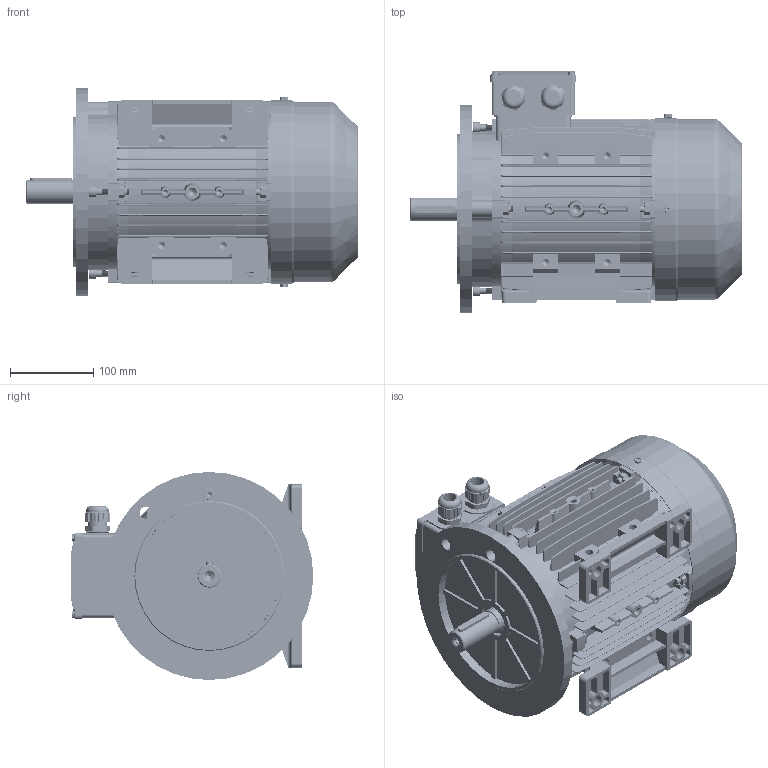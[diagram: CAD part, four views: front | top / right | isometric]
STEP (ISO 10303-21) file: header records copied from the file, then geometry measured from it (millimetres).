
FILE_DESCRIPTION (( 'STEP AP203' ), '1' );
FILE_NAME ('MSL112L assembly B35.STEP', '2017-11-26T10:00:52', ( 'user' ), ( 'china' ), 'SwSTEP 2.0', 'SolidWorks 2016', '' );
FILE_SCHEMA (( 'CONFIG_CONTROL_DESIGN' ));
Length unit declared in the file: millimetre
Products named in the file (17): MS112 綴裔瑞欶郪磁_105; M112菁褐; MS132諉盄碟釱(苤)_2Holes; GB-T 29.2-1988 M4鞠褒坋趼湍菜_05; M112傷裔B3_Post; MSL112L assembly B35; GB-T 70.1-2000 M8_40; M112瑞欶_105; M112-132諉盄碟(苤); GB-T 5780-2000 M8_040; M25 cable gland; M112-Shaft drive end; M112儂褲; GB-T 29.2-1988 M5鞠褒坋趼湍菜_10; M112傷裔B5; MS132諉盄碟裔(苤); GB-T 41-2000 M8
Assembly tree (36 placements, depth 3):
  MSL112L assembly B35
    M112儂褲
    M112-Shaft drive end
    MS112 綴裔瑞欶郪磁_105
      M112傷裔B3_Post
      M112瑞欶_105
      GB-T 29.2-1988 M5鞠褒坋趼湍菜_10  x3
    M112傷裔B5
    M112-132諉盄碟(苤)
      MS132諉盄碟釱(苤)_2Holes
      MS132諉盄碟裔(苤)
      GB-T 29.2-1988 M4鞠褒坋趼湍菜_05  x4
      M25 cable gland  x2
    M112菁褐  x2
    GB-T 41-2000 M8  x8
    GB-T 70.1-2000 M8_40  x4
    GB-T 5780-2000 M8_040  x4
Bounding box: 399 x 291.5 x 250 mm (x, y, z)
Volume: 2335509.3 mm3; surface area: 1213454.4 mm2
Topology: 36 solids, 36 shells, 5599 faces, 14422 edges, 8932 vertices
Faces by surface type: plane 2283, cylinder 1553, cone 1091, bspline 444, torus 130, sphere 98
Entity records: 138389 total; most frequent: CARTESIAN_POINT 45460, ORIENTED_EDGE 19692, DIRECTION 17795, EDGE_CURVE 9846, VERTEX_POINT 6216, AXIS2_PLACEMENT_3D 6135, LINE 5525, VECTOR 5525
